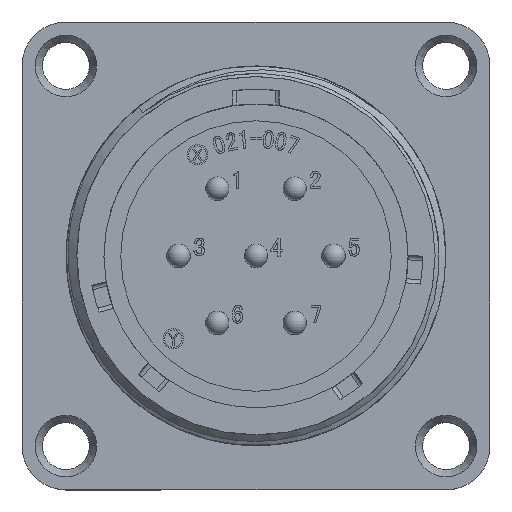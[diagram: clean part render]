
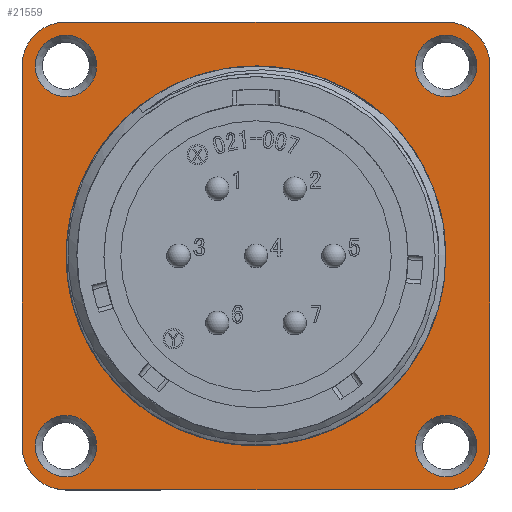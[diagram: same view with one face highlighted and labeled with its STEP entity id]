
A CAD part, top view. The second image highlights one B-rep face of the part: STEP entity #21559.
In plain terms, the highlighted planar face has unit normal (0, 0, 1).
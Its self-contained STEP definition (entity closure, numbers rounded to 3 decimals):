
#76 = DIRECTION ( 'NONE',  ( 0., 0., -1. ) ) ;
#128 = VERTEX_POINT ( 'NONE', #12037 ) ;
#214 = EDGE_LOOP ( 'NONE', ( #18761 ) ) ;
#237 = DIRECTION ( 'NONE',  ( 1., 0., 0. ) ) ;
#269 = VERTEX_POINT ( 'NONE', #7343 ) ;
#440 = LINE ( 'NONE', #7103, #22367 ) ;
#638 = EDGE_CURVE ( 'NONE', #8811, #8811, #7447, .T. ) ;
#882 = ORIENTED_EDGE ( 'NONE', *, *, #23867, .F. ) ;
#945 = CIRCLE ( 'NONE', #14474, 12.98 ) ;
#1427 = CARTESIAN_POINT ( 'NONE',  ( 13., 16., -10.5 ) ) ;
#1992 = AXIS2_PLACEMENT_3D ( 'NONE', #7931, #8014, #22411 ) ;
#2077 = VERTEX_POINT ( 'NONE', #9880 ) ;
#2232 = EDGE_LOOP ( 'NONE', ( #17285 ) ) ;
#2303 = CARTESIAN_POINT ( 'NONE',  ( 16., 13., -10.5 ) ) ;
#2405 = DIRECTION ( 'NONE',  ( 0., 0., 1. ) ) ;
#2911 = EDGE_CURVE ( 'NONE', #269, #22331, #19322, .T. ) ;
#3118 = ORIENTED_EDGE ( 'NONE', *, *, #3557, .F. ) ;
#3461 = DIRECTION ( 'NONE',  ( 0., 0., -1. ) ) ;
#3557 = EDGE_CURVE ( 'NONE', #2077, #2077, #21231, .T. ) ;
#3600 = DIRECTION ( 'NONE',  ( 0., 0., 1. ) ) ;
#4378 = DIRECTION ( 'NONE',  ( 0., -1., 0. ) ) ;
#5341 = VERTEX_POINT ( 'NONE', #16976 ) ;
#5592 = CARTESIAN_POINT ( 'NONE',  ( 0., 0., -10.5 ) ) ;
#5783 = ORIENTED_EDGE ( 'NONE', *, *, #11505, .T. ) ;
#6180 = ORIENTED_EDGE ( 'NONE', *, *, #23896, .F. ) ;
#6626 = EDGE_CURVE ( 'NONE', #24395, #18982, #440, .T. ) ;
#6660 = VERTEX_POINT ( 'NONE', #11247 ) ;
#7103 = CARTESIAN_POINT ( 'NONE',  ( -16., 13., -10.5 ) ) ;
#7257 = ORIENTED_EDGE ( 'NONE', *, *, #21683, .F. ) ;
#7343 = CARTESIAN_POINT ( 'NONE',  ( -13., 16., -10.5 ) ) ;
#7447 = CIRCLE ( 'NONE', #26666, 2.1 ) ;
#7509 = AXIS2_PLACEMENT_3D ( 'NONE', #12406, #76, #14462 ) ;
#7556 = AXIS2_PLACEMENT_3D ( 'NONE', #15887, #3600, #17957 ) ;
#7590 = CARTESIAN_POINT ( 'NONE',  ( -13., -13., -10.5 ) ) ;
#7664 = DIRECTION ( 'NONE',  ( 1., 0., 0. ) ) ;
#7710 = AXIS2_PLACEMENT_3D ( 'NONE', #15744, #3461, #17824 ) ;
#7850 = EDGE_LOOP ( 'NONE', ( #3118 ) ) ;
#7900 = CARTESIAN_POINT ( 'NONE',  ( 15.1, -13., -10.5 ) ) ;
#7920 = DIRECTION ( 'NONE',  ( 0., 0., 1. ) ) ;
#7931 = CARTESIAN_POINT ( 'NONE',  ( -13., -13., -10.5 ) ) ;
#8007 = FACE_BOUND ( 'NONE', #7850, .T. ) ;
#8014 = DIRECTION ( 'NONE',  ( 0., 0., 1. ) ) ;
#8025 = AXIS2_PLACEMENT_3D ( 'NONE', #14706, #2405, #16776 ) ;
#8121 = AXIS2_PLACEMENT_3D ( 'NONE', #20250, #7920, #22314 ) ;
#8145 = CARTESIAN_POINT ( 'NONE',  ( -13., -16., -10.5 ) ) ;
#8332 = EDGE_LOOP ( 'NONE', ( #6180, #22491, #882, #15372, #7257, #11604, #16673, #18398 ) ) ;
#8380 = EDGE_CURVE ( 'NONE', #22039, #22039, #14862, .T. ) ;
#8811 = VERTEX_POINT ( 'NONE', #11851 ) ;
#9657 = DIRECTION ( 'NONE',  ( 1., 0., 0. ) ) ;
#9880 = CARTESIAN_POINT ( 'NONE',  ( -10.9, 13., -10.5 ) ) ;
#9974 = CARTESIAN_POINT ( 'NONE',  ( 15.1, 13., -10.5 ) ) ;
#10060 = ORIENTED_EDGE ( 'NONE', *, *, #638, .F. ) ;
#10467 = AXIS2_PLACEMENT_3D ( 'NONE', #7590, #21990, #9657 ) ;
#10991 = EDGE_CURVE ( 'NONE', #11072, #11072, #23155, .T. ) ;
#11072 = VERTEX_POINT ( 'NONE', #9974 ) ;
#11247 = CARTESIAN_POINT ( 'NONE',  ( 16., -13., -10.5 ) ) ;
#11399 = CARTESIAN_POINT ( 'NONE',  ( -16., 13., -10.5 ) ) ;
#11505 = EDGE_CURVE ( 'NONE', #128, #128, #945, .T. ) ;
#11604 = ORIENTED_EDGE ( 'NONE', *, *, #2911, .F. ) ;
#11846 = EDGE_LOOP ( 'NONE', ( #10060 ) ) ;
#11851 = CARTESIAN_POINT ( 'NONE',  ( -10.9, -13., -10.5 ) ) ;
#11925 = VECTOR ( 'NONE', #15388, 1000. ) ;
#12037 = CARTESIAN_POINT ( 'NONE',  ( 12.98, 0., -10.5 ) ) ;
#12406 = CARTESIAN_POINT ( 'NONE',  ( 13., 13., -10.5 ) ) ;
#12571 = DIRECTION ( 'NONE',  ( 0., 0., -1. ) ) ;
#12801 = FACE_OUTER_BOUND ( 'NONE', #8332, .T. ) ;
#13182 = VECTOR ( 'NONE', #15713, 1000. ) ;
#13329 = CARTESIAN_POINT ( 'NONE',  ( 13., -16., -10.5 ) ) ;
#14116 = FACE_BOUND ( 'NONE', #11846, .T. ) ;
#14172 = VERTEX_POINT ( 'NONE', #18684 ) ;
#14462 = DIRECTION ( 'NONE',  ( -1., 0., 0. ) ) ;
#14474 = AXIS2_PLACEMENT_3D ( 'NONE', #5592, #20005, #7664 ) ;
#14632 = EDGE_LOOP ( 'NONE', ( #5783 ) ) ;
#14706 = CARTESIAN_POINT ( 'NONE',  ( -13., 13., -10.5 ) ) ;
#14862 = CIRCLE ( 'NONE', #7556, 2.1 ) ;
#15016 = VERTEX_POINT ( 'NONE', #8145 ) ;
#15216 = DIRECTION ( 'NONE',  ( 0., 0., 1. ) ) ;
#15372 = ORIENTED_EDGE ( 'NONE', *, *, #22267, .F. ) ;
#15388 = DIRECTION ( 'NONE',  ( -1., 0., 0. ) ) ;
#15713 = DIRECTION ( 'NONE',  ( 1., 0., 0. ) ) ;
#15744 = CARTESIAN_POINT ( 'NONE',  ( 13., -13., -10.5 ) ) ;
#15887 = CARTESIAN_POINT ( 'NONE',  ( 13., -13., -10.5 ) ) ;
#16062 = CIRCLE ( 'NONE', #22816, 3. ) ;
#16673 = ORIENTED_EDGE ( 'NONE', *, *, #20425, .F. ) ;
#16760 = CARTESIAN_POINT ( 'NONE',  ( 13., 16., -10.5 ) ) ;
#16776 = DIRECTION ( 'NONE',  ( 1., 0., 0. ) ) ;
#16966 = CIRCLE ( 'NONE', #7509, 3. ) ;
#16976 = CARTESIAN_POINT ( 'NONE',  ( 16., 13., -10.5 ) ) ;
#17285 = ORIENTED_EDGE ( 'NONE', *, *, #8380, .F. ) ;
#17824 = DIRECTION ( 'NONE',  ( -1., 0., 0. ) ) ;
#17957 = DIRECTION ( 'NONE',  ( 1., 0., 0. ) ) ;
#18293 = FACE_BOUND ( 'NONE', #14632, .T. ) ;
#18398 = ORIENTED_EDGE ( 'NONE', *, *, #6626, .F. ) ;
#18684 = CARTESIAN_POINT ( 'NONE',  ( 13., -16., -10.5 ) ) ;
#18761 = ORIENTED_EDGE ( 'NONE', *, *, #10991, .F. ) ;
#18982 = VERTEX_POINT ( 'NONE', #11399 ) ;
#19322 = LINE ( 'NONE', #1427, #13182 ) ;
#19467 = EDGE_CURVE ( 'NONE', #14172, #15016, #22851, .T. ) ;
#19896 = CIRCLE ( 'NONE', #7710, 3. ) ;
#20005 = DIRECTION ( 'NONE',  ( 0., 0., -1. ) ) ;
#20230 = LINE ( 'NONE', #2303, #25004 ) ;
#20250 = CARTESIAN_POINT ( 'NONE',  ( 13., 13., -10.5 ) ) ;
#20356 = PLANE ( 'NONE',  #1992 ) ;
#20425 = EDGE_CURVE ( 'NONE', #18982, #269, #16062, .T. ) ;
#21231 = CIRCLE ( 'NONE', #8025, 2.1 ) ;
#21515 = DIRECTION ( 'NONE',  ( 0., 1., 0. ) ) ;
#21559 = ADVANCED_FACE ( 'NONE', ( #14116, #23758, #24398, #8007, #18293, #12801 ), #20356, .T. ) ;
#21683 = EDGE_CURVE ( 'NONE', #22331, #5341, #16966, .T. ) ;
#21990 = DIRECTION ( 'NONE',  ( 0., 0., -1. ) ) ;
#22039 = VERTEX_POINT ( 'NONE', #7900 ) ;
#22267 = EDGE_CURVE ( 'NONE', #5341, #6660, #20230, .T. ) ;
#22314 = DIRECTION ( 'NONE',  ( 1., 0., 0. ) ) ;
#22331 = VERTEX_POINT ( 'NONE', #16760 ) ;
#22367 = VECTOR ( 'NONE', #21515, 1000. ) ;
#22411 = DIRECTION ( 'NONE',  ( 1., 0., 0. ) ) ;
#22491 = ORIENTED_EDGE ( 'NONE', *, *, #19467, .F. ) ;
#22816 = AXIS2_PLACEMENT_3D ( 'NONE', #24878, #12571, #237 ) ;
#22851 = LINE ( 'NONE', #13329, #11925 ) ;
#22884 = CARTESIAN_POINT ( 'NONE',  ( -13., -13., -10.5 ) ) ;
#23155 = CIRCLE ( 'NONE', #8121, 2.1 ) ;
#23758 = FACE_BOUND ( 'NONE', #2232, .T. ) ;
#23867 = EDGE_CURVE ( 'NONE', #6660, #14172, #19896, .T. ) ;
#23896 = EDGE_CURVE ( 'NONE', #15016, #24395, #25315, .T. ) ;
#24176 = CARTESIAN_POINT ( 'NONE',  ( -16., -13., -10.5 ) ) ;
#24395 = VERTEX_POINT ( 'NONE', #24176 ) ;
#24398 = FACE_BOUND ( 'NONE', #214, .T. ) ;
#24878 = CARTESIAN_POINT ( 'NONE',  ( -13., 13., -10.5 ) ) ;
#24934 = DIRECTION ( 'NONE',  ( 1., 0., 0. ) ) ;
#25004 = VECTOR ( 'NONE', #4378, 1000. ) ;
#25315 = CIRCLE ( 'NONE', #10467, 3. ) ;
#26666 = AXIS2_PLACEMENT_3D ( 'NONE', #22884, #15216, #24934 ) ;
